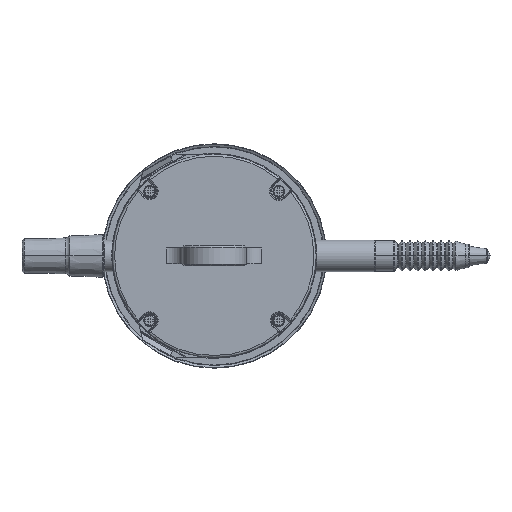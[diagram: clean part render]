
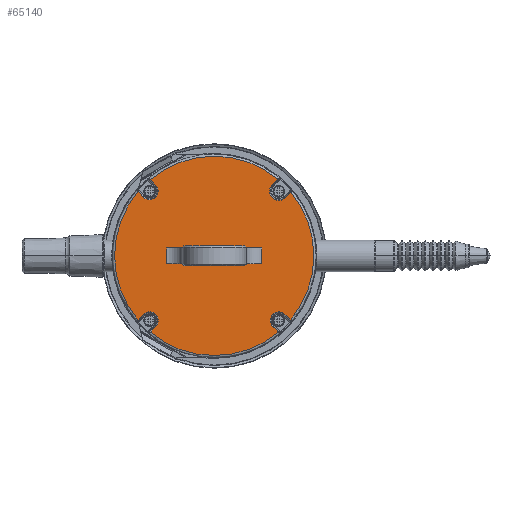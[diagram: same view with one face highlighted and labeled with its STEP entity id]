
A CAD part, top view. The second image highlights one B-rep face of the part: STEP entity #65140.
In plain terms, the highlighted planar face has unit normal (0, 0, 1).
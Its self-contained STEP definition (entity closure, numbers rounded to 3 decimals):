
#24470=CARTESIAN_POINT('',(-16.288,-19.359,2.1));
#24480=VERTEX_POINT('',#24470);
#24510=CARTESIAN_POINT('',(0.,0.,2.1));
#24520=DIRECTION('',(0.,0.,-1.));
#24530=DIRECTION('',(-1.,0.,0.));
#24540=AXIS2_PLACEMENT_3D('',#24510,#24520,#24530);
#24550=CIRCLE('',#24540,25.3);
#24560=CARTESIAN_POINT('',(16.134,-19.488,2.1));
#24570=VERTEX_POINT('',#24560);
#24580=EDGE_CURVE('',#24570,#24480,#24550,.T.);
#36190=CARTESIAN_POINT('',(-19.359,16.288,2.1));
#36200=VERTEX_POINT('',#36190);
#36230=CARTESIAN_POINT('',(0.,0.,2.1));
#36240=DIRECTION('',(0.,0.,-1.));
#36250=DIRECTION('',(-1.,0.,0.));
#36260=AXIS2_PLACEMENT_3D('',#36230,#36240,#36250);
#36270=CIRCLE('',#36260,25.3);
#36280=CARTESIAN_POINT('',(-19.359,-16.288,2.1));
#36290=VERTEX_POINT('',#36280);
#36300=EDGE_CURVE('',#36290,#36200,#36270,.T.);
#40560=CARTESIAN_POINT('',(-14.869,17.94,2.1));
#40570=VERTEX_POINT('',#40560);
#40760=CARTESIAN_POINT('',(-16.288,19.359,2.1));
#40770=VERTEX_POINT('',#40760);
#40800=CARTESIAN_POINT('',(0.,3.071,2.1));
#40810=DIRECTION('',(0.707,-0.707,0.));
#40820=VECTOR('',#40810,1.);
#40830=LINE('',#40800,#40820);
#40840=EDGE_CURVE('',#40770,#40570,#40830,.T.);
#41080=CARTESIAN_POINT('',(2.2,8.1,2.1));
#41090=VERTEX_POINT('',#41080);
#41120=CARTESIAN_POINT('',(10.3,0.,2.1));
#41130=DIRECTION('',(-0.707,0.707,0.));
#41140=VECTOR('',#41130,1.);
#41150=LINE('',#41120,#41140);
#41160=CARTESIAN_POINT('',(2.5,7.8,2.1));
#41170=VERTEX_POINT('',#41160);
#41180=EDGE_CURVE('',#41170,#41090,#41150,.T.);
#41340=CARTESIAN_POINT('',(0.,10.3,2.1));
#41350=DIRECTION('',(0.707,0.707,0.));
#41360=VECTOR('',#41350,1.);
#41370=LINE('',#41340,#41360);
#41380=CARTESIAN_POINT('',(-2.5,7.8,2.1));
#41390=VERTEX_POINT('',#41380);
#41400=CARTESIAN_POINT('',(-2.2,8.1,2.1));
#41410=VERTEX_POINT('',#41400);
#41420=EDGE_CURVE('',#41390,#41410,#41370,.T.);
#41880=CARTESIAN_POINT('',(-2.2,-8.1,2.1));
#41890=VERTEX_POINT('',#41880);
#41920=CARTESIAN_POINT('',(-10.3,0.,2.1));
#41930=DIRECTION('',(0.707,-0.707,0.));
#41940=VECTOR('',#41930,1.);
#41950=LINE('',#41920,#41940);
#41960=CARTESIAN_POINT('',(-2.5,-7.8,2.1));
#41970=VERTEX_POINT('',#41960);
#41980=EDGE_CURVE('',#41970,#41890,#41950,.T.);
#42780=CARTESIAN_POINT('',(-2.,12.1,2.1));
#42790=VERTEX_POINT('',#42780);
#42820=CARTESIAN_POINT('',(-2.,12.1,2.1));
#42830=DIRECTION('',(1.,0.,0.));
#42840=VECTOR('',#42830,1.);
#42850=LINE('',#42820,#42840);
#42860=CARTESIAN_POINT('',(2.,12.1,2.1));
#42870=VERTEX_POINT('',#42860);
#42880=EDGE_CURVE('',#42790,#42870,#42850,.T.);
#45480=CARTESIAN_POINT('',(19.488,-16.134,2.1));
#45490=VERTEX_POINT('',#45480);
#45520=CARTESIAN_POINT('',(0.,0.,2.1));
#45530=DIRECTION('',(0.,0.,-1.));
#45540=DIRECTION('',(-1.,0.,0.));
#45550=AXIS2_PLACEMENT_3D('',#45520,#45530,#45540);
#45560=CIRCLE('',#45550,25.3);
#45570=CARTESIAN_POINT('',(19.359,16.288,2.1));
#45580=VERTEX_POINT('',#45570);
#45590=EDGE_CURVE('',#45580,#45490,#45560,.T.);
#46000=CARTESIAN_POINT('',(14.728,-18.082,2.1));
#46010=VERTEX_POINT('',#46000);
#46220=CARTESIAN_POINT('',(0.,-3.354,2.1));
#46230=DIRECTION('',(-0.707,0.707,0.));
#46240=VECTOR('',#46230,1.);
#46250=LINE('',#46220,#46240);
#46260=EDGE_CURVE('',#24570,#46010,#46250,.T.);
#47730=CARTESIAN_POINT('',(-2.,8.1,2.1));
#47740=VERTEX_POINT('',#47730);
#47770=CARTESIAN_POINT('',(-2.,0.,2.1));
#47780=DIRECTION('',(0.,1.,0.));
#47790=VECTOR('',#47780,1.);
#47800=LINE('',#47770,#47790);
#47810=EDGE_CURVE('',#47740,#42790,#47800,.T.);
#54030=CARTESIAN_POINT('',(14.869,17.94,2.1));
#54040=VERTEX_POINT('',#54030);
#54130=CARTESIAN_POINT('',(17.94,14.869,2.1));
#54140=VERTEX_POINT('',#54130);
#54170=CARTESIAN_POINT('',(16.405,16.405,2.1));
#54180=DIRECTION('',(0.,0.,1.));
#54190=DIRECTION('',(-1.,0.,0.));
#54200=AXIS2_PLACEMENT_3D('',#54170,#54180,#54190);
#54210=CIRCLE('',#54200,2.172);
#54220=EDGE_CURVE('',#54040,#54140,#54210,.T.);
#63480=CARTESIAN_POINT('',(0.,0.,2.1));
#63490=DIRECTION('',(0.,0.,-1.));
#63500=DIRECTION('',(1.,0.,0.));
#63510=AXIS2_PLACEMENT_3D('',#63480,#63490,#63500);
#63520=PLANE('',#63510);
#63530=ORIENTED_EDGE('',*,*,#41980,.F.);
#63540=CARTESIAN_POINT('',(0.,-8.1,2.1));
#63550=DIRECTION('',(1.,0.,0.));
#63560=VECTOR('',#63550,1.);
#63570=LINE('',#63540,#63560);
#63580=CARTESIAN_POINT('',(-2.,-8.1,2.1));
#63590=VERTEX_POINT('',#63580);
#63600=EDGE_CURVE('',#41890,#63590,#63570,.T.);
#63610=ORIENTED_EDGE('',*,*,#63600,.F.);
#63620=CARTESIAN_POINT('',(-2.,0.,2.1));
#63630=DIRECTION('',(0.,1.,0.));
#63640=VECTOR('',#63630,1.);
#63650=LINE('',#63620,#63640);
#63660=CARTESIAN_POINT('',(-2.,-12.1,2.1));
#63670=VERTEX_POINT('',#63660);
#63680=EDGE_CURVE('',#63670,#63590,#63650,.T.);
#63690=ORIENTED_EDGE('',*,*,#63680,.T.);
#63700=CARTESIAN_POINT('',(-2.,-12.1,2.1));
#63710=DIRECTION('',(1.,0.,0.));
#63720=VECTOR('',#63710,1.);
#63730=LINE('',#63700,#63720);
#63740=CARTESIAN_POINT('',(2.,-12.1,2.1));
#63750=VERTEX_POINT('',#63740);
#63760=EDGE_CURVE('',#63670,#63750,#63730,.T.);
#63770=ORIENTED_EDGE('',*,*,#63760,.F.);
#63780=CARTESIAN_POINT('',(2.,0.,2.1));
#63790=DIRECTION('',(0.,-1.,0.));
#63800=VECTOR('',#63790,1.);
#63810=LINE('',#63780,#63800);
#63820=CARTESIAN_POINT('',(2.,-8.1,2.1));
#63830=VERTEX_POINT('',#63820);
#63840=EDGE_CURVE('',#63830,#63750,#63810,.T.);
#63850=ORIENTED_EDGE('',*,*,#63840,.T.);
#63860=CARTESIAN_POINT('',(2.2,-8.1,2.1));
#63870=VERTEX_POINT('',#63860);
#63880=EDGE_CURVE('',#63830,#63870,#63570,.T.);
#63890=ORIENTED_EDGE('',*,*,#63880,.F.);
#63900=CARTESIAN_POINT('',(10.3,0.,2.1));
#63910=DIRECTION('',(0.707,0.707,0.));
#63920=VECTOR('',#63910,1.);
#63930=LINE('',#63900,#63920);
#63940=CARTESIAN_POINT('',(2.5,-7.8,2.1));
#63950=VERTEX_POINT('',#63940);
#63960=EDGE_CURVE('',#63870,#63950,#63930,.T.);
#63970=ORIENTED_EDGE('',*,*,#63960,.F.);
#63980=CARTESIAN_POINT('',(2.5,0.,2.1));
#63990=DIRECTION('',(0.,-1.,0.));
#64000=VECTOR('',#63990,1.);
#64010=LINE('',#63980,#64000);
#64020=EDGE_CURVE('',#41170,#63950,#64010,.T.);
#64030=ORIENTED_EDGE('',*,*,#64020,.T.);
#64040=ORIENTED_EDGE('',*,*,#41180,.F.);
#64050=CARTESIAN_POINT('',(0.,8.1,2.1));
#64060=DIRECTION('',(-1.,0.,0.));
#64070=VECTOR('',#64060,1.);
#64080=LINE('',#64050,#64070);
#64090=CARTESIAN_POINT('',(2.,8.1,2.1));
#64100=VERTEX_POINT('',#64090);
#64110=EDGE_CURVE('',#41090,#64100,#64080,.T.);
#64120=ORIENTED_EDGE('',*,*,#64110,.F.);
#64130=CARTESIAN_POINT('',(2.,0.,2.1));
#64140=DIRECTION('',(0.,-1.,0.));
#64150=VECTOR('',#64140,1.);
#64160=LINE('',#64130,#64150);
#64170=EDGE_CURVE('',#42870,#64100,#64160,.T.);
#64180=ORIENTED_EDGE('',*,*,#64170,.T.);
#64190=ORIENTED_EDGE('',*,*,#42880,.T.);
#64200=ORIENTED_EDGE('',*,*,#47810,.T.);
#64210=EDGE_CURVE('',#47740,#41410,#64080,.T.);
#64220=ORIENTED_EDGE('',*,*,#64210,.F.);
#64230=ORIENTED_EDGE('',*,*,#41420,.T.);
#64240=CARTESIAN_POINT('',(-2.5,0.,2.1));
#64250=DIRECTION('',(0.,1.,0.));
#64260=VECTOR('',#64250,1.);
#64270=LINE('',#64240,#64260);
#64280=EDGE_CURVE('',#41970,#41390,#64270,.T.);
#64290=ORIENTED_EDGE('',*,*,#64280,.T.);
#64300=EDGE_LOOP('',(#64290,#64230,#64220,#64200,#64190,#64180,#64120,
#64040,#64030,#63970,#63890,#63850,#63770,#63690,#63610,#63530));
#64310=FACE_BOUND('',#64300,.T.);
#64320=ORIENTED_EDGE('',*,*,#24580,.F.);
#64330=CARTESIAN_POINT('',(0.,-3.071,2.1));
#64340=DIRECTION('',(-0.707,-0.707,0.));
#64350=VECTOR('',#64340,1.);
#64360=LINE('',#64330,#64350);
#64370=CARTESIAN_POINT('',(-14.869,-17.94,2.1));
#64380=VERTEX_POINT('',#64370);
#64390=EDGE_CURVE('',#64380,#24480,#64360,.T.);
#64400=ORIENTED_EDGE('',*,*,#64390,.T.);
#64410=CARTESIAN_POINT('',(-16.405,-16.405,2.1));
#64420=DIRECTION('',(0.,0.,1.));
#64430=DIRECTION('',(-1.,0.,0.));
#64440=AXIS2_PLACEMENT_3D('',#64410,#64420,#64430);
#64450=CIRCLE('',#64440,2.172);
#64460=CARTESIAN_POINT('',(-17.94,-14.869,2.1));
#64470=VERTEX_POINT('',#64460);
#64480=EDGE_CURVE('',#64380,#64470,#64450,.T.);
#64490=ORIENTED_EDGE('',*,*,#64480,.F.);
#64500=CARTESIAN_POINT('',(0.,3.071,2.1));
#64510=DIRECTION('',(0.707,0.707,0.));
#64520=VECTOR('',#64510,1.);
#64530=LINE('',#64500,#64520);
#64540=EDGE_CURVE('',#36290,#64470,#64530,.T.);
#64550=ORIENTED_EDGE('',*,*,#64540,.T.);
#64560=ORIENTED_EDGE('',*,*,#36300,.F.);
#64570=CARTESIAN_POINT('',(0.,-3.071,2.1));
#64580=DIRECTION('',(-0.707,0.707,0.));
#64590=VECTOR('',#64580,1.);
#64600=LINE('',#64570,#64590);
#64610=CARTESIAN_POINT('',(-17.94,14.869,2.1));
#64620=VERTEX_POINT('',#64610);
#64630=EDGE_CURVE('',#64620,#36200,#64600,.T.);
#64640=ORIENTED_EDGE('',*,*,#64630,.T.);
#64650=CARTESIAN_POINT('',(-16.405,16.405,2.1));
#64660=DIRECTION('',(0.,0.,1.));
#64670=DIRECTION('',(-1.,0.,0.));
#64680=AXIS2_PLACEMENT_3D('',#64650,#64660,#64670);
#64690=CIRCLE('',#64680,2.172);
#64700=EDGE_CURVE('',#64620,#40570,#64690,.T.);
#64710=ORIENTED_EDGE('',*,*,#64700,.F.);
#64720=ORIENTED_EDGE('',*,*,#40840,.T.);
#64730=CARTESIAN_POINT('',(0.,0.,2.1));
#64740=DIRECTION('',(0.,0.,-1.));
#64750=DIRECTION('',(-1.,0.,0.));
#64760=AXIS2_PLACEMENT_3D('',#64730,#64740,#64750);
#64770=CIRCLE('',#64760,25.3);
#64780=CARTESIAN_POINT('',(16.288,19.359,2.1));
#64790=VERTEX_POINT('',#64780);
#64800=EDGE_CURVE('',#40770,#64790,#64770,.T.);
#64810=ORIENTED_EDGE('',*,*,#64800,.F.);
#64820=CARTESIAN_POINT('',(0.,3.071,2.1));
#64830=DIRECTION('',(0.707,0.707,0.));
#64840=VECTOR('',#64830,1.);
#64850=LINE('',#64820,#64840);
#64860=EDGE_CURVE('',#54040,#64790,#64850,.T.);
#64870=ORIENTED_EDGE('',*,*,#64860,.T.);
#64880=ORIENTED_EDGE('',*,*,#54220,.F.);
#64890=CARTESIAN_POINT('',(0.,-3.071,2.1));
#64900=DIRECTION('',(-0.707,-0.707,0.));
#64910=VECTOR('',#64900,1.);
#64920=LINE('',#64890,#64910);
#64930=EDGE_CURVE('',#45580,#54140,#64920,.T.);
#64940=ORIENTED_EDGE('',*,*,#64930,.T.);
#64950=ORIENTED_EDGE('',*,*,#45590,.F.);
#64960=CARTESIAN_POINT('',(0.,3.354,2.1));
#64970=DIRECTION('',(0.707,-0.707,0.));
#64980=VECTOR('',#64970,1.);
#64990=LINE('',#64960,#64980);
#65000=CARTESIAN_POINT('',(18.082,-14.728,2.1));
#65010=VERTEX_POINT('',#65000);
#65020=EDGE_CURVE('',#65010,#45490,#64990,.T.);
#65030=ORIENTED_EDGE('',*,*,#65020,.T.);
#65040=CARTESIAN_POINT('',(16.405,-16.405,2.1));
#65050=DIRECTION('',(0.,0.,1.));
#65060=DIRECTION('',(-1.,0.,0.));
#65070=AXIS2_PLACEMENT_3D('',#65040,#65050,#65060);
#65080=CIRCLE('',#65070,2.372);
#65090=EDGE_CURVE('',#65010,#46010,#65080,.T.);
#65100=ORIENTED_EDGE('',*,*,#65090,.F.);
#65110=ORIENTED_EDGE('',*,*,#46260,.T.);
#65120=EDGE_LOOP('',(#65110,#65100,#65030,#64950,#64940,#64880,#64870,
#64810,#64720,#64710,#64640,#64560,#64550,#64490,#64400,#64320));
#65130=FACE_OUTER_BOUND('',#65120,.T.);
#65140=ADVANCED_FACE('',(#64310,#65130),#63520,.F.);
